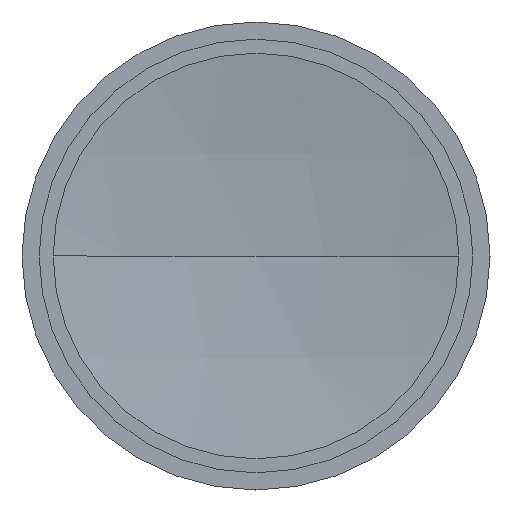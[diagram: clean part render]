
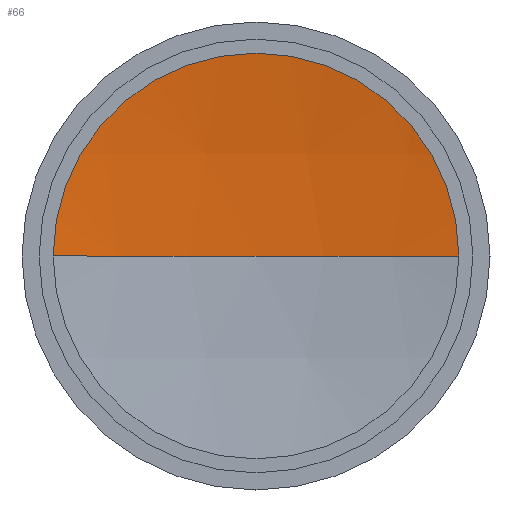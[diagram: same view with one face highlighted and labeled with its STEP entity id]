
A CAD part, front view. The second image highlights one B-rep face of the part: STEP entity #66.
In plain terms, the highlighted spherical face has radius 81 mm.
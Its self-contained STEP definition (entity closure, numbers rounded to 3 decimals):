
#27 = AXIS2_PLACEMENT_3D ( 'NONE', #322, #320, #327 ) ;
#34 = AXIS2_PLACEMENT_3D ( 'NONE', #365, #347, #358 ) ;
#41 = EDGE_CURVE ( 'NONE', #102, #82, #186, .T. ) ;
#43 = AXIS2_PLACEMENT_3D ( 'NONE', #252, #263, #245 ) ;
#50 = AXIS2_PLACEMENT_3D ( 'NONE', #264, #259, #256 ) ;
#60 = EDGE_CURVE ( 'NONE', #82, #90, #215, .T. ) ;
#66 = ADVANCED_FACE ( 'NONE', ( #171 ), #178, .F. ) ;
#82 = VERTEX_POINT ( 'NONE', #318 ) ;
#90 = VERTEX_POINT ( 'NONE', #304 ) ;
#102 = VERTEX_POINT ( 'NONE', #302 ) ;
#111 = ORIENTED_EDGE ( 'NONE', *, *, #60, .T. ) ;
#122 = ORIENTED_EDGE ( 'NONE', *, *, #41, .T. ) ;
#125 = ORIENTED_EDGE ( 'NONE', *, *, #394, .F. ) ;
#161 = EDGE_LOOP ( 'NONE', ( #125, #122, #111 ) ) ;
#171 = FACE_OUTER_BOUND ( 'NONE', #161, .T. ) ;
#178 = SPHERICAL_SURFACE ( 'NONE', #27, 81. ) ;
#186 = CIRCLE ( 'NONE', #43, 81. ) ;
#194 = CIRCLE ( 'NONE', #34, 81. ) ;
#215 = CIRCLE ( 'NONE', #50, 13. ) ;
#245 = DIRECTION ( 'NONE',  ( -1., 0., 0. ) ) ;
#252 = CARTESIAN_POINT ( 'NONE',  ( 0., -75.95, 0. ) ) ;
#256 = DIRECTION ( 'NONE',  ( 1., 0., 0. ) ) ;
#259 = DIRECTION ( 'NONE',  ( 0., -1., 0. ) ) ;
#263 = DIRECTION ( 'NONE',  ( 0., 0., -1. ) ) ;
#264 = CARTESIAN_POINT ( 'NONE',  ( 0., 4., 0. ) ) ;
#302 = CARTESIAN_POINT ( 'NONE',  ( 0., 5.05, 0. ) ) ;
#304 = CARTESIAN_POINT ( 'NONE',  ( -13., 4., 0. ) ) ;
#318 = CARTESIAN_POINT ( 'NONE',  ( 13., 4., 0. ) ) ;
#320 = DIRECTION ( 'NONE',  ( 0., 0., -1. ) ) ;
#322 = CARTESIAN_POINT ( 'NONE',  ( 0., -75.95, 0. ) ) ;
#327 = DIRECTION ( 'NONE',  ( -1., 0., 0. ) ) ;
#347 = DIRECTION ( 'NONE',  ( 0., 0., 1. ) ) ;
#358 = DIRECTION ( 'NONE',  ( 1., 0., 0. ) ) ;
#365 = CARTESIAN_POINT ( 'NONE',  ( 0., -75.95, 0. ) ) ;
#394 = EDGE_CURVE ( 'NONE', #102, #90, #194, .T. ) ;
